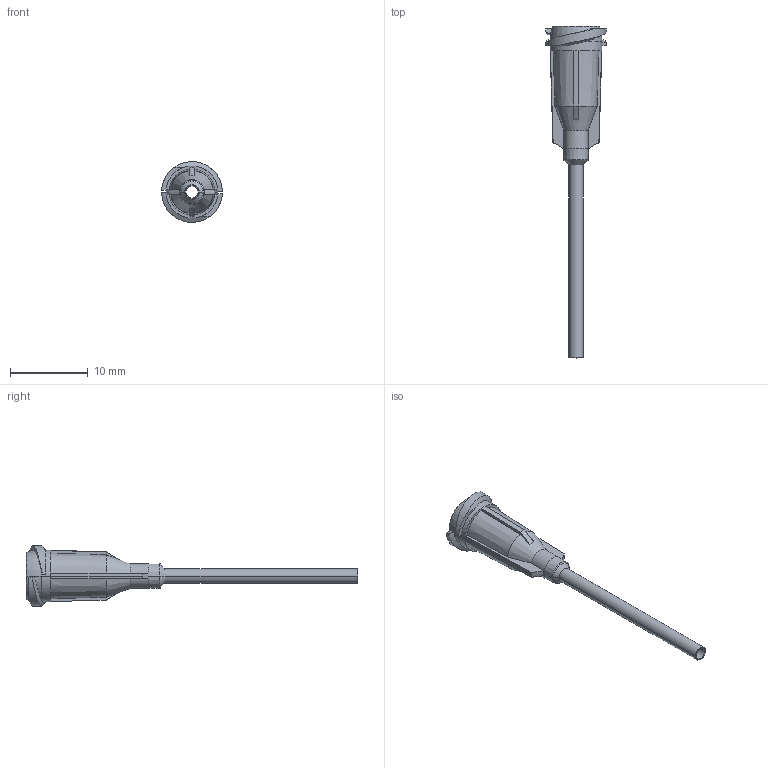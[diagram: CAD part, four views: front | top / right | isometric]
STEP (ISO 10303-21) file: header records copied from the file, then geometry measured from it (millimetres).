
FILE_DESCRIPTION (( 'STEP AP214' ), '1' );
FILE_NAME ('NORDSONEFD-7018031 TIP 14GA GP 060 X 10 OL.STEP', '2019-03-27T23:36:39', ( '' ), ( '' ), 'SwSTEP 2.0', 'SolidWorks 2019', '' );
FILE_SCHEMA (( 'AUTOMOTIVE_DESIGN' ));
Length unit declared in the file: inch
Products named in the file (1): NORDSONEFD-7018031 TIP 14GA GP 060 X 10 OL
Bounding box: 7.82 x 42.77 x 7.81 mm (x, y, z)
Volume: 269.5 mm3; surface area: 840.3 mm2
Topology: 1 solids, 1 shells, 98 faces, 228 edges, 136 vertices
Faces by surface type: plane 26, torus 22, cone 22, cylinder 16, bspline 12
Entity records: 3320 total; most frequent: CARTESIAN_POINT 997, DIRECTION 460, ORIENTED_EDGE 456, EDGE_CURVE 228, AXIS2_PLACEMENT_3D 201, VERTEX_POINT 136, CIRCLE 114, EDGE_LOOP 104
